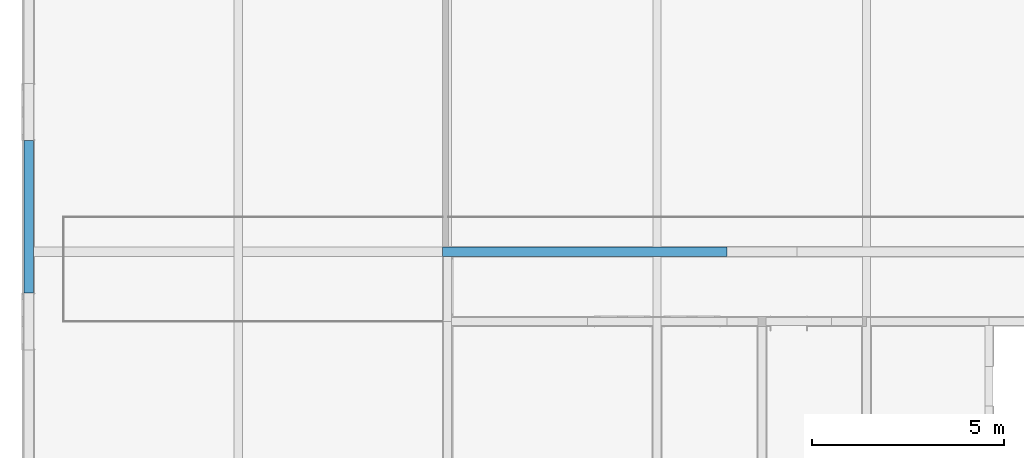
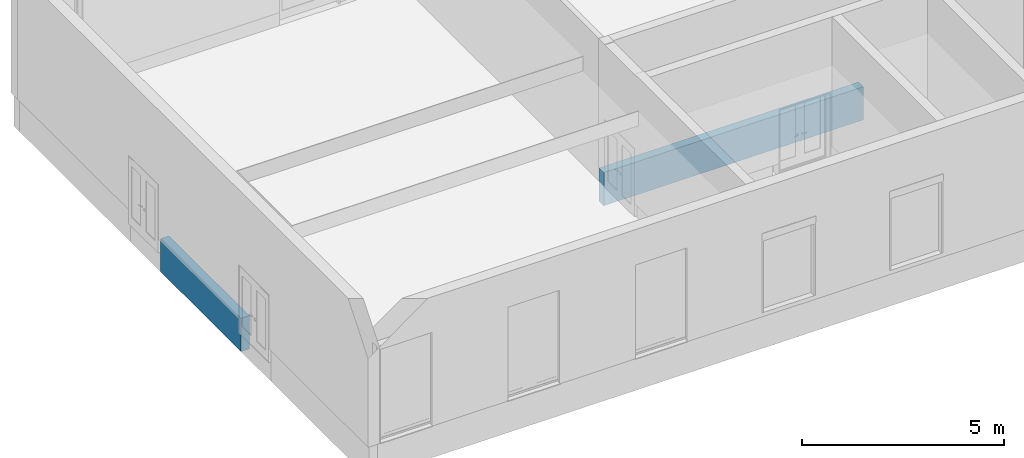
# One storey, part 5 of 22: 2 walls.
"""IFC4X3 building model written with IfcOpenShell, lengths in millimetres."""

from ifc_helpers import new_model, entity, si_unit, converted_unit, derived_unit, direction, frame, frame_2d, origin, place, context, subcontext, project, spatial, rectangle, extrude, material, layer, layer_set, type_object, element, save


model = new_model("IFC4X3")

# Units and contexts
model_context = context("Model", 3, precision=0.01, world=origin(), true_north=direction((6.12303176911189e-17, 1.0)))
body_context = subcontext(model_context, "Body", "Model", "MODEL_VIEW")
ifc_project = project(units=[si_unit("LENGTHUNIT", "METRE", prefix="MILLI"), si_unit("AREAUNIT", "SQUARE_METRE"), si_unit("VOLUMEUNIT", "CUBIC_METRE"), converted_unit("PLANEANGLEUNIT", "DEGREE", entity("IfcPlaneAngleMeasure", 0.0174532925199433), si_unit("PLANEANGLEUNIT", "RADIAN"), dimensions=[0, 0, 0, 0, 0, 0, 0]), si_unit("MASSUNIT", "GRAM", prefix="KILO"), derived_unit("MASSDENSITYUNIT", [(si_unit("MASSUNIT", "GRAM", prefix="KILO"), 1), (si_unit("LENGTHUNIT", "METRE"), -3)]), derived_unit("IONCONCENTRATIONUNIT", [(si_unit("MASSUNIT", "GRAM", prefix="KILO"), 1), (si_unit("LENGTHUNIT", "METRE"), -3)]), derived_unit("MOMENTOFINERTIAUNIT", [(si_unit("LENGTHUNIT", "METRE"), 4)]), si_unit("TIMEUNIT", "SECOND"), si_unit("FREQUENCYUNIT", "HERTZ"), si_unit("THERMODYNAMICTEMPERATUREUNIT", "DEGREE_CELSIUS"), derived_unit("THERMALTRANSMITTANCEUNIT", [(si_unit("MASSUNIT", "GRAM", prefix="KILO"), 1), (si_unit("THERMODYNAMICTEMPERATUREUNIT", "KELVIN"), -1), (si_unit("TIMEUNIT", "SECOND"), -3)]), derived_unit("THERMALCONDUCTANCEUNIT", [(si_unit("MASSUNIT", "GRAM", prefix="KILO"), 1), (si_unit("THERMODYNAMICTEMPERATUREUNIT", "KELVIN"), -1), (si_unit("TIMEUNIT", "SECOND"), -3), (si_unit("LENGTHUNIT", "METRE"), 1)]), derived_unit("VOLUMETRICFLOWRATEUNIT", [(si_unit("LENGTHUNIT", "METRE", prefix="DECI"), 3), (si_unit("TIMEUNIT", "SECOND"), -1)]), derived_unit("MASSFLOWRATEUNIT", [(si_unit("MASSUNIT", "GRAM", prefix="KILO"), 1), (si_unit("TIMEUNIT", "SECOND"), -1)]), derived_unit("ROTATIONALFREQUENCYUNIT", [(si_unit("TIMEUNIT", "SECOND"), -1)]), si_unit("ELECTRICCURRENTUNIT", "AMPERE"), si_unit("ELECTRICVOLTAGEUNIT", "VOLT"), si_unit("POWERUNIT", "WATT"), si_unit("FORCEUNIT", "NEWTON", prefix="KILO"), si_unit("ILLUMINANCEUNIT", "LUX"), si_unit("LUMINOUSFLUXUNIT", "LUMEN"), si_unit("LUMINOUSINTENSITYUNIT", "CANDELA"), si_unit("ENERGYUNIT", "JOULE"), derived_unit("USERDEFINED", [(si_unit("MASSUNIT", "GRAM", prefix="KILO"), -1), (si_unit("LENGTHUNIT", "METRE"), -2), (si_unit("TIMEUNIT", "SECOND"), 3), (si_unit("LUMINOUSFLUXUNIT", "LUMEN"), 1)]), derived_unit("USERDEFINED", [(si_unit("MASSUNIT", "GRAM", prefix="KILO"), 1), (si_unit("TIMEUNIT", "SECOND"), -3), (si_unit("LENGTHUNIT", "METRE"), 3), (si_unit("ELECTRICCURRENTUNIT", "AMPERE"), -2)]), derived_unit("SOUNDPOWERUNIT", [(si_unit("MASSUNIT", "GRAM", prefix="KILO"), 1), (si_unit("TIMEUNIT", "SECOND"), -3), (si_unit("LENGTHUNIT", "METRE"), 2)]), derived_unit("SOUNDPRESSUREUNIT", [(si_unit("MASSUNIT", "GRAM", prefix="KILO"), 1), (si_unit("LENGTHUNIT", "METRE"), -1), (si_unit("TIMEUNIT", "SECOND"), -2)]), derived_unit("LINEARVELOCITYUNIT", [(si_unit("LENGTHUNIT", "METRE"), 1), (si_unit("TIMEUNIT", "SECOND"), -1)]), si_unit("PRESSUREUNIT", "PASCAL"), derived_unit("USERDEFINED", [(si_unit("MASSUNIT", "GRAM", prefix="KILO"), 1), (si_unit("LENGTHUNIT", "METRE"), -2), (si_unit("TIMEUNIT", "SECOND"), -2)]), derived_unit("LINEARFORCEUNIT", [(si_unit("MASSUNIT", "GRAM", prefix="KILO"), 1), (si_unit("TIMEUNIT", "SECOND"), -2)]), derived_unit("PLANARFORCEUNIT", [(si_unit("MASSUNIT", "GRAM", prefix="KILO"), 1), (si_unit("LENGTHUNIT", "METRE"), -1), (si_unit("TIMEUNIT", "SECOND"), -2)]), derived_unit("SPECIFICHEATCAPACITYUNIT", [(si_unit("THERMODYNAMICTEMPERATUREUNIT", "KELVIN"), -1), (si_unit("LENGTHUNIT", "METRE"), 2), (si_unit("TIMEUNIT", "SECOND"), -2)]), derived_unit("HEATFLUXDENSITYUNIT", [(si_unit("MASSUNIT", "GRAM", prefix="KILO"), 1), (si_unit("TIMEUNIT", "SECOND"), -3)]), derived_unit("HEATINGVALUEUNIT", [(si_unit("LENGTHUNIT", "METRE"), 2), (si_unit("TIMEUNIT", "SECOND"), -2)]), derived_unit("VAPORPERMEABILITYUNIT", [(si_unit("LENGTHUNIT", "METRE"), -1), (si_unit("TIMEUNIT", "SECOND"), 1)]), derived_unit("DYNAMICVISCOSITYUNIT", [(si_unit("MASSUNIT", "GRAM", prefix="KILO"), 1), (si_unit("TIMEUNIT", "SECOND"), -1), (si_unit("LENGTHUNIT", "METRE"), -1)]), derived_unit("THERMALEXPANSIONCOEFFICIENTUNIT", [(si_unit("THERMODYNAMICTEMPERATUREUNIT", "KELVIN"), -1)]), derived_unit("MODULUSOFELASTICITYUNIT", [(si_unit("MASSUNIT", "GRAM", prefix="KILO"), 1), (si_unit("LENGTHUNIT", "METRE"), -1), (si_unit("TIMEUNIT", "SECOND"), -2)]), derived_unit("ISOTHERMALMOISTURECAPACITYUNIT", [(si_unit("MASSUNIT", "GRAM", prefix="KILO"), -1), (si_unit("LENGTHUNIT", "METRE"), 3)]), derived_unit("MOISTUREDIFFUSIVITYUNIT", [(si_unit("TIMEUNIT", "SECOND"), -1), (si_unit("LENGTHUNIT", "METRE"), 2)]), derived_unit("AREADENSITYUNIT", [(si_unit("MASSUNIT", "GRAM", prefix="KILO"), 1), (si_unit("LENGTHUNIT", "METRE"), 2)]), derived_unit("MASSPERLENGTHUNIT", [(si_unit("MASSUNIT", "GRAM", prefix="KILO"), 1), (si_unit("LENGTHUNIT", "METRE"), -1)]), derived_unit("THERMALRESISTANCEUNIT", [(si_unit("MASSUNIT", "GRAM", prefix="KILO"), -1), (si_unit("TIMEUNIT", "SECOND"), 3), (si_unit("THERMODYNAMICTEMPERATUREUNIT", "KELVIN"), 1)]), derived_unit("ACCELERATIONUNIT", [(si_unit("LENGTHUNIT", "METRE"), 1), (si_unit("TIMEUNIT", "SECOND"), -2)]), derived_unit("ANGULARVELOCITYUNIT", [(si_unit("TIMEUNIT", "SECOND"), -1), (si_unit("PLANEANGLEUNIT", "RADIAN"), 1)]), derived_unit("LINEARSTIFFNESSUNIT", [(si_unit("MASSUNIT", "GRAM", prefix="KILO"), 1), (si_unit("TIMEUNIT", "SECOND"), -2)]), derived_unit("WARPINGCONSTANTUNIT", [(si_unit("LENGTHUNIT", "METRE"), 6)]), derived_unit("LINEARMOMENTUNIT", [(si_unit("MASSUNIT", "GRAM", prefix="KILO"), 1), (si_unit("LENGTHUNIT", "METRE"), 1), (si_unit("TIMEUNIT", "SECOND"), -2)]), derived_unit("TORQUEUNIT", [(si_unit("MASSUNIT", "GRAM", prefix="KILO"), 1), (si_unit("LENGTHUNIT", "METRE"), 2), (si_unit("TIMEUNIT", "SECOND"), -2)])], contexts=[model_context])

# Site, building, storey
site_placement = place(None, origin())
site = spatial("IfcSite", under=ifc_project, at=site_placement, Name="Default", CompositionType="ELEMENT")
building_placement = place(site_placement, origin())
building = spatial("IfcBuilding", under=site, at=building_placement, Name="事務所ビル", CompositionType="ELEMENT")
storey_placement = place(building_placement, origin())
storey = spatial("IfcBuildingStorey", under=building, at=storey_placement, Name="1FL", CompositionType="ELEMENT", Elevation=0.0)

# Walls
ifc_material = material(Name="*コンクリート")
ifc_layer = layer(ifc_material, 240.0, Name="*コンクリート")
ifc_layer_set = layer_set([ifc_layer], Name="標準壁:(基礎梁)RC_w240h1000")
wall_type = type_object("IfcWallType", Name="標準壁:(基礎梁)RC_w240h1000", PredefinedType="STANDARD", material=ifc_layer_set)
wall_1_placement = place(storey_placement, frame((0.0, 6200.0, -600.0), z_axis=(0.0, 0.0, 1.0), x_axis=(0.0, 1.0, 0.0)))
element("IfcWall", 1, at=wall_1_placement, inside=storey, type_object=wall_type, material=ifc_layer_set, Name="標準壁:(基礎梁)RC_w240h1000", ObjectType="標準壁:(基礎梁)RC_w240h1000", PredefinedType="NOTDEFINED", context=body_context, shape_type="SweptSolid", body=[
    extrude(rectangle(XDim=3980.00000000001, YDim=240.0, at=frame_2d((1990.0, 0.0), x_axis=(-1.0, 0.0))), origin(), (0.0, 0.0, 1.0), 1000.0),
])
wall_2_placement = place(storey_placement, frame((10788.0, 7280.0, -600.0)))
element("IfcWall", 2, at=wall_2_placement, inside=storey, type_object=wall_type, material=ifc_layer_set, Name="標準壁:(基礎梁)RC_w240h1000", ObjectType="標準壁:(基礎梁)RC_w240h1000", PredefinedType="NOTDEFINED", context=body_context, shape_type="SweptSolid", body=[
    extrude(rectangle(XDim=7412.0, YDim=240.0, at=frame_2d((3706.0, 2.20268248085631e-13), x_axis=(-1.0, 0.0))), origin(), (0.0, 0.0, 1.0), 1000.0),
])

save(model, "model.ifc")
